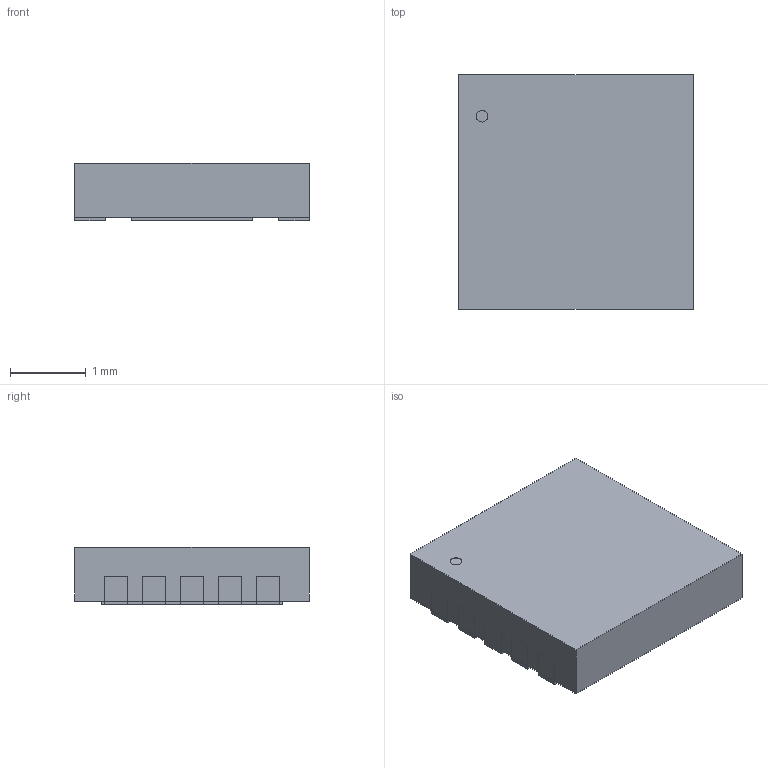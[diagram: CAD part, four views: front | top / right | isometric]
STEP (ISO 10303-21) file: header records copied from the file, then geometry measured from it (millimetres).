
FILE_DESCRIPTION(('STEP AP214'),'1');
FILE_NAME('21-0137_T10331C_ADI','2026-06-03T08:01:52',(''),(''),'','','');
FILE_SCHEMA(('AUTOMOTIVE_DESIGN'));
Length unit declared in the file: millimetre
Products named in the file (1): product
Bounding box: 3.1 x 3.1 x 0.77 mm (x, y, z)
Volume: 7.1 mm3; surface area: 41.3 mm2
Topology: 13 solids, 13 shells, 95 faces, 187 edges, 118 vertices
Faces by surface type: plane 94, cylinder 1
Full cylindrical faces by diameter (mm): 0.155 x1
Entity records: 2577 total; most frequent: ORIENTED_EDGE 412, DIRECTION 402, CARTESIAN_POINT 237, EDGE_CURVE 206, LINE 204, VECTOR 204, VERTEX_POINT 138, AXIS2_PLACEMENT_3D 99
